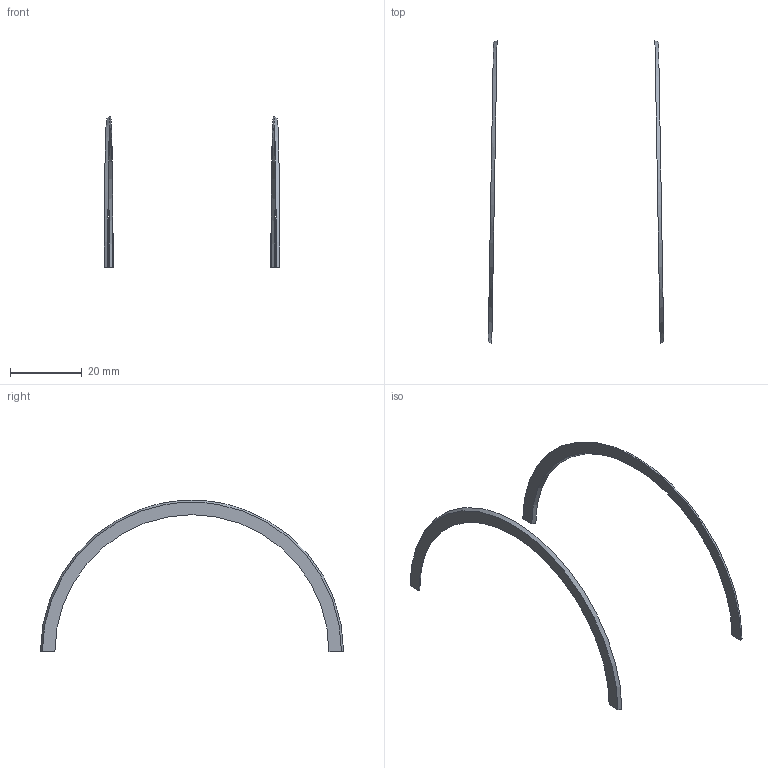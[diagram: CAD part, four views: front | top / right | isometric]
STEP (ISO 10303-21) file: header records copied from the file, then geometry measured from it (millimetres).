
FILE_DESCRIPTION(('Open CASCADE Model'),'2;1');
FILE_NAME('Open CASCADE Shape Model','2026-11-20T06:43:20',('Author'),( 'Open CASCADE'),'Open CASCADE STEP processor 7.8','Open CASCADE 7.8' ,'Unknown');
FILE_SCHEMA(('AUTOMOTIVE_DESIGN { 1 0 10303 214 1 1 1 1 }'));
Length unit declared in the file: millimetre
Products named in the file (3): C01_partition_yaw_plus1_partition_reference; Partition_Xminus; Partition_Xplus
Assembly tree (2 placements, depth 2):
  C01_partition_yaw_plus1_partition_reference
    Partition_Xminus
    Partition_Xplus
Bounding box: 48.84 x 84.35 x 42.18 mm (x, y, z)
Volume: 874.6 mm3; surface area: 2346.2 mm2
Topology: 2 solids, 2 shells, 12 faces, 24 edges, 16 vertices
Faces by surface type: plane 8, sphere 4
Entity records: 1212 total; most frequent: CARTESIAN_POINT 697, DIRECTION 88, ORIENTED_EDGE 48, PCURVE 48, DEFINITIONAL_REPRESENTATION 48, AXIS2_PLACEMENT_3D 31, CIRCLE 30, B_SPLINE_CURVE_WITH_KNOTS 28
